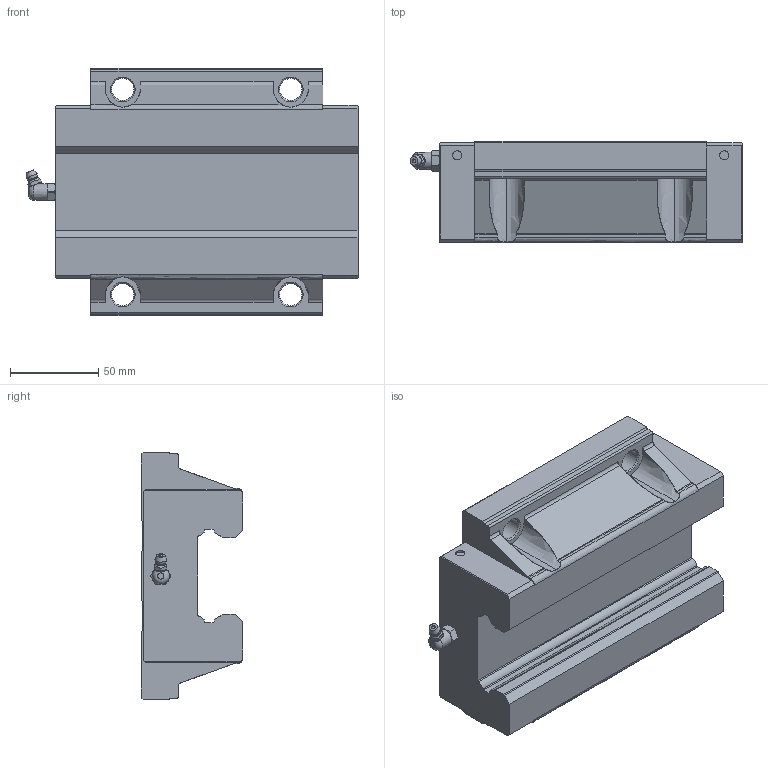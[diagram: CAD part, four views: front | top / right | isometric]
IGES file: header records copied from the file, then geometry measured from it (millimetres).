
Start section: Data from Parasolid IGES Translator 26.0.171, Copyright(c) 2006 Siemens PLM Software. All Rights Reserved.
Global section: file name: SHS55C1SS(GK) BLOCK(B-PT1_81).igs; native system: By Siemens PLM Incorporated; preprocessor: XPlus GENERIC/IGES 26.0.171; author: Noname; organization: Noname; date: 20240514.033710; units: millimetre
Bounding box: 187.7 x 57.3 x 140 mm (x, y, z)
Surface area: 86902 mm2 (no closed solid volume)
Topology: 0 solids, 0 shells, 175 faces, 961 edges, 938 vertices
Faces by surface type: extrusion 99, revolution 76
